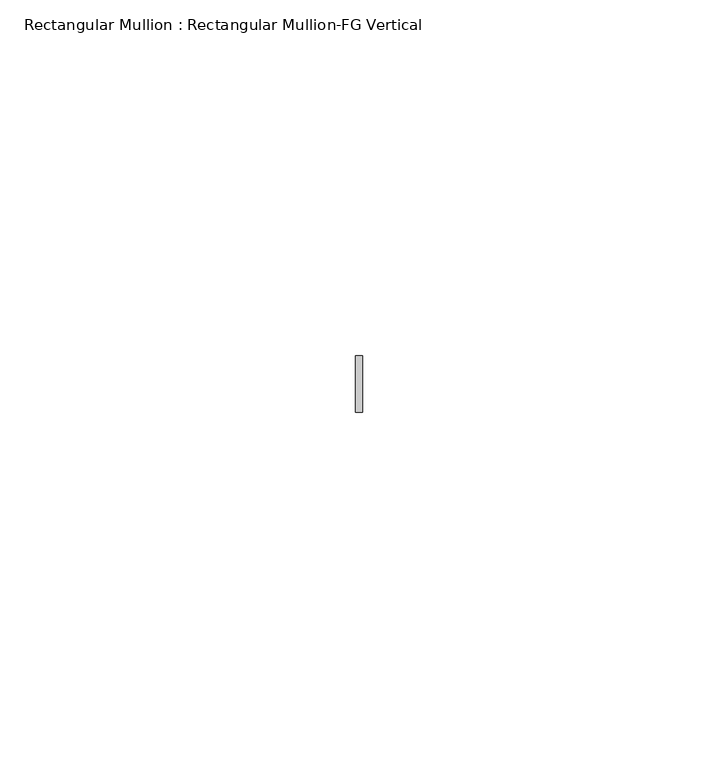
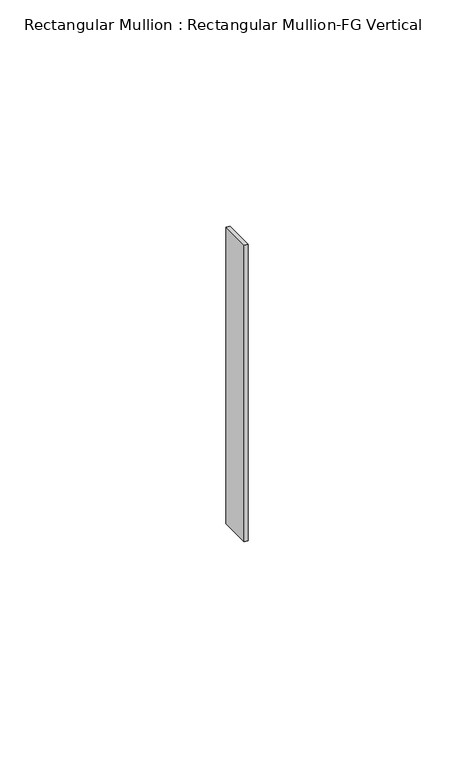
"""IFC4 building model written with IfcOpenShell, lengths in millimetres: member geometry, Rectangular Mullion : Rectangular Mullion-FG Vertical."""

from ifc_helpers import new_model, si_unit, frame, origin, place, context, project, spatial, polyline, outline, extrude, source, transform, mapped, element, save


def rectangular_mullion_rectangular_mullion_fg_vertical_7fae1f3c(model_context):
    return source(origin(), model_context, "Body", "SweptSolid", [
        extrude(outline(polyline([(-0.5, -11.0), (-0.5, -3.0), (0.5, -3.0), (0.5, -11.0), (-0.5, -11.0)])), frame((0.0, 0.0, -80.0), z_axis=(0.0, 0.0, 1.0), x_axis=(1.0, 0.0, 0.0)), (0.0, 0.0, 1.0), 80.0),
    ])


if __name__ == "__main__":
    model = new_model("IFC4")
    model_context = context("Model", 3, world=origin())
    ifc_project = project(units=[si_unit("LENGTHUNIT", "METRE", prefix="MILLI")], contexts=[model_context])
    site = spatial("IfcSite", under=ifc_project)
    building = spatial("IfcBuilding", under=site)
    placement = place(None, origin())
    rectangular_mullion_rectangular_mullion_fg_vertical_shape = rectangular_mullion_rectangular_mullion_fg_vertical_7fae1f3c(model_context)
    element("IfcMember", 1, ObjectType="Rectangular Mullion : Rectangular Mullion-FG Vertical", at=placement, inside=building, context=model_context, shape_type="MappedRepresentation", body=[
        mapped(rectangular_mullion_rectangular_mullion_fg_vertical_shape, transform((0.0, 0.0, 0.0), x_axis=(1.0, 0.0, 0.0), y_axis=(0.0, 1.0, 0.0), z_axis=(0.0, 0.0, 1.0))),
    ])
    save(model, "model.ifc")
